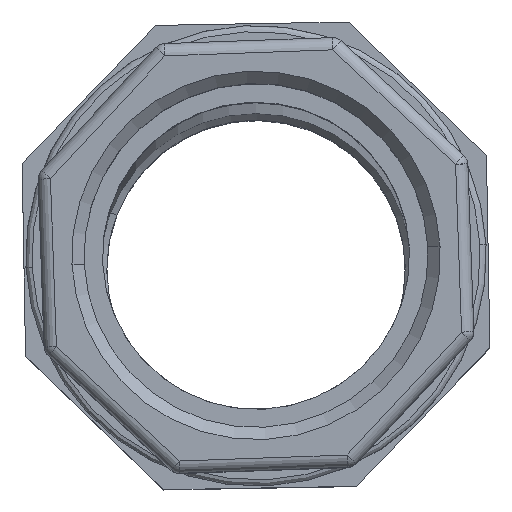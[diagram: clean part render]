
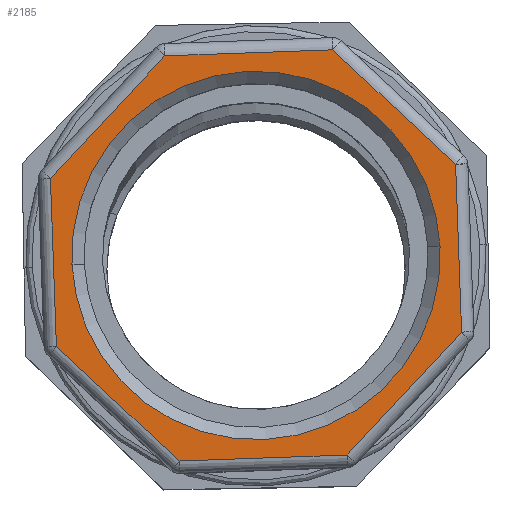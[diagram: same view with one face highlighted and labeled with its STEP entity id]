
A CAD part, top view. The second image highlights one B-rep face of the part: STEP entity #2185.
In plain terms, the highlighted planar face has unit normal (0, 0, 1).
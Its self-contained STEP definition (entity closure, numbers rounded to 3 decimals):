
#513 = CARTESIAN_POINT ( 'NONE',  ( -36.23, 33.725, 1293.798 ) ) ;
#518 = FACE_BOUND ( 'NONE', #4470, .T. ) ;
#522 = FACE_OUTER_BOUND ( 'NONE', #4480, .T. ) ;
#523 = PLANE ( 'NONE',  #3993 ) ;
#525 = DIRECTION ( 'NONE',  ( 0., 0., 1. ) ) ;
#526 = DIRECTION ( 'NONE',  ( 0.999, 0.051, 0. ) ) ;
#756 = LINE ( 'NONE', #783, #4085 ) ;
#779 = LINE ( 'NONE', #781, #4082 ) ;
#781 = CARTESIAN_POINT ( 'NONE',  ( 32.46, 15.669, 1293.798 ) ) ;
#782 = DIRECTION ( 'NONE',  ( -0.036, 0.999, 0. ) ) ;
#783 = CARTESIAN_POINT ( 'NONE',  ( 11.873, 34.032, 1293.798 ) ) ;
#784 = DIRECTION ( 'NONE',  ( -0.732, 0.681, 0. ) ) ;
#785 = LINE ( 'NONE', #786, #4080 ) ;
#786 = CARTESIAN_POINT ( 'NONE',  ( -15.669, 32.46, 1293.798 ) ) ;
#787 = DIRECTION ( 'NONE',  ( -0.999, -0.036, 0. ) ) ;
#788 = LINE ( 'NONE', #789, #4079 ) ;
#789 = CARTESIAN_POINT ( 'NONE',  ( -34.032, 11.873, 1293.798 ) ) ;
#790 = DIRECTION ( 'NONE',  ( -0.681, -0.732, 0. ) ) ;
#791 = LINE ( 'NONE', #792, #4078 ) ;
#792 = CARTESIAN_POINT ( 'NONE',  ( -32.46, -15.669, 1293.798 ) ) ;
#793 = DIRECTION ( 'NONE',  ( 0.036, -0.999, 0. ) ) ;
#794 = LINE ( 'NONE', #795, #4077 ) ;
#795 = CARTESIAN_POINT ( 'NONE',  ( -11.873, -34.032, 1293.798 ) ) ;
#796 = DIRECTION ( 'NONE',  ( 0.732, -0.681, 0. ) ) ;
#797 = LINE ( 'NONE', #798, #4076 ) ;
#798 = CARTESIAN_POINT ( 'NONE',  ( 15.669, -32.46, 1293.798 ) ) ;
#799 = DIRECTION ( 'NONE',  ( 0.999, 0.036, 0. ) ) ;
#800 = LINE ( 'NONE', #801, #4075 ) ;
#801 = CARTESIAN_POINT ( 'NONE',  ( 34.032, -11.873, 1293.798 ) ) ;
#802 = DIRECTION ( 'NONE',  ( 0.681, 0.732, 0. ) ) ;
#805 = CARTESIAN_POINT ( 'NONE',  ( 0., 0., 1293.798 ) ) ;
#806 = DIRECTION ( 'NONE',  ( 0., 0., -1. ) ) ;
#807 = DIRECTION ( 'NONE',  ( 0.999, 0.051, 0. ) ) ;
#1319 = CARTESIAN_POINT ( 'NONE',  ( 0., 0., 1293.798 ) ) ;
#1320 = DIRECTION ( 'NONE',  ( 0., 0., -1. ) ) ;
#1321 = DIRECTION ( 'NONE',  ( 0.999, 0.051, 0. ) ) ;
#1872 = EDGE_CURVE ( 'NONE', #4611, #4613, #4293, .T. ) ;
#2068 = EDGE_CURVE ( 'NONE', #3125, #4625, #779, .T. ) ;
#2069 = EDGE_CURVE ( 'NONE', #4625, #3130, #756, .T. ) ;
#2070 = EDGE_CURVE ( 'NONE', #3130, #3127, #785, .T. ) ;
#2071 = EDGE_CURVE ( 'NONE', #3127, #3129, #788, .T. ) ;
#2075 = EDGE_CURVE ( 'NONE', #3129, #4601, #791, .T. ) ;
#2078 = EDGE_CURVE ( 'NONE', #4601, #3139, #794, .T. ) ;
#2080 = EDGE_CURVE ( 'NONE', #3139, #3124, #797, .T. ) ;
#2082 = EDGE_CURVE ( 'NONE', #3124, #3125, #800, .T. ) ;
#2085 = EDGE_CURVE ( 'NONE', #4613, #4611, #4074, .T. ) ;
#2185 = ADVANCED_FACE ( 'NONE', ( #522, #518 ), #523, .T. ) ;
#2652 = CARTESIAN_POINT ( 'NONE',  ( 14.841, -32.49, 1293.798 ) ) ;
#2653 = CARTESIAN_POINT ( 'NONE',  ( 33.468, -12.479, 1293.798 ) ) ;
#2655 = CARTESIAN_POINT ( 'NONE',  ( -14.841, 32.49, 1293.798 ) ) ;
#2657 = CARTESIAN_POINT ( 'NONE',  ( -33.468, 12.479, 1293.798 ) ) ;
#2658 = CARTESIAN_POINT ( 'NONE',  ( 12.479, 33.468, 1293.798 ) ) ;
#2667 = CARTESIAN_POINT ( 'NONE',  ( -12.479, -33.468, 1293.798 ) ) ;
#2718 = CARTESIAN_POINT ( 'NONE',  ( -32.49, -14.841, 1293.798 ) ) ;
#2728 = CARTESIAN_POINT ( 'NONE',  ( 29.962, 1.515, 1293.798 ) ) ;
#2730 = CARTESIAN_POINT ( 'NONE',  ( -29.962, -1.515, 1293.798 ) ) ;
#2742 = CARTESIAN_POINT ( 'NONE',  ( 32.49, 14.841, 1293.798 ) ) ;
#3124 = VERTEX_POINT ( 'NONE', #2652 ) ;
#3125 = VERTEX_POINT ( 'NONE', #2653 ) ;
#3127 = VERTEX_POINT ( 'NONE', #2655 ) ;
#3129 = VERTEX_POINT ( 'NONE', #2657 ) ;
#3130 = VERTEX_POINT ( 'NONE', #2658 ) ;
#3139 = VERTEX_POINT ( 'NONE', #2667 ) ;
#3384 = ORIENTED_EDGE ( 'NONE', *, *, #2068, .T. ) ;
#3385 = ORIENTED_EDGE ( 'NONE', *, *, #2069, .T. ) ;
#3386 = ORIENTED_EDGE ( 'NONE', *, *, #2070, .T. ) ;
#3387 = ORIENTED_EDGE ( 'NONE', *, *, #2071, .T. ) ;
#3388 = ORIENTED_EDGE ( 'NONE', *, *, #2075, .T. ) ;
#3389 = ORIENTED_EDGE ( 'NONE', *, *, #2078, .T. ) ;
#3390 = ORIENTED_EDGE ( 'NONE', *, *, #2080, .T. ) ;
#3391 = ORIENTED_EDGE ( 'NONE', *, *, #2082, .T. ) ;
#3392 = ORIENTED_EDGE ( 'NONE', *, *, #1872, .T. ) ;
#3393 = ORIENTED_EDGE ( 'NONE', *, *, #2085, .T. ) ;
#3993 = AXIS2_PLACEMENT_3D ( 'NONE', #513, #525, #526 ) ;
#4072 = AXIS2_PLACEMENT_3D ( 'NONE', #805, #806, #807 ) ;
#4074 = CIRCLE ( 'NONE', #4072, 30. ) ;
#4075 = VECTOR ( 'NONE', #802, 1000. ) ;
#4076 = VECTOR ( 'NONE', #799, 1000. ) ;
#4077 = VECTOR ( 'NONE', #796, 1000. ) ;
#4078 = VECTOR ( 'NONE', #793, 1000. ) ;
#4079 = VECTOR ( 'NONE', #790, 1000. ) ;
#4080 = VECTOR ( 'NONE', #787, 1000. ) ;
#4082 = VECTOR ( 'NONE', #782, 1000. ) ;
#4085 = VECTOR ( 'NONE', #784, 1000. ) ;
#4287 = AXIS2_PLACEMENT_3D ( 'NONE', #1319, #1320, #1321 ) ;
#4293 = CIRCLE ( 'NONE', #4287, 30. ) ;
#4470 = EDGE_LOOP ( 'NONE', ( #3392, #3393 ) ) ;
#4480 = EDGE_LOOP ( 'NONE', ( #3384, #3385, #3386, #3387, #3388, #3389, #3390, #3391 ) ) ;
#4601 = VERTEX_POINT ( 'NONE', #2718 ) ;
#4611 = VERTEX_POINT ( 'NONE', #2728 ) ;
#4613 = VERTEX_POINT ( 'NONE', #2730 ) ;
#4625 = VERTEX_POINT ( 'NONE', #2742 ) ;
